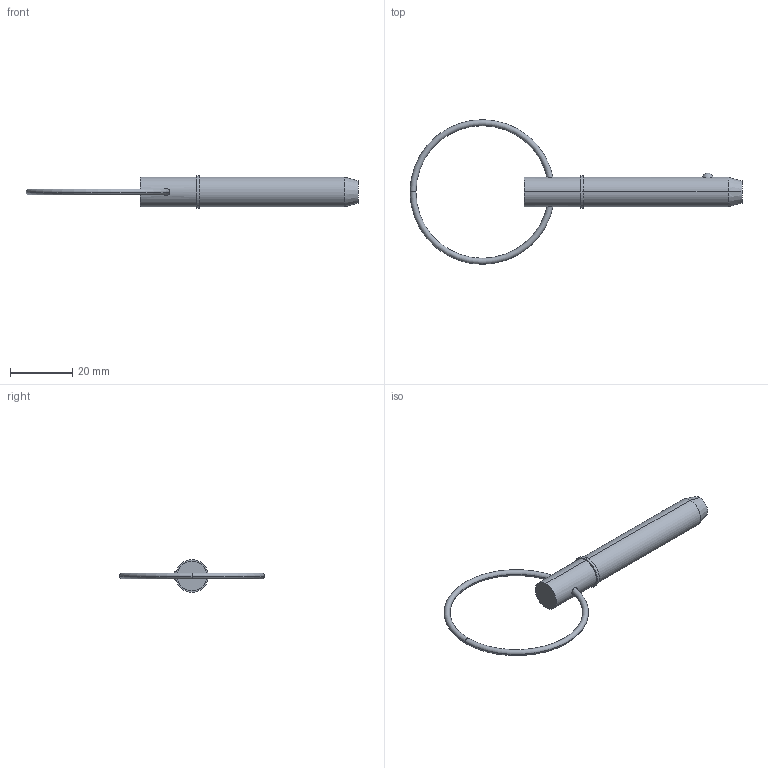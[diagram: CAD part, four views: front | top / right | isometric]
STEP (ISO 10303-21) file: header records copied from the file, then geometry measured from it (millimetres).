
FILE_DESCRIPTION (( 'STEP AP203' ), '1' );
FILE_NAME ('33016.W3715.step', '2024-11-07T11:05:05', ( '' ), ( '' ), 'SwSTEP 2.0', 'SolidWorks 2019', '' );
FILE_SCHEMA (( 'CONFIG_CONTROL_DESIGN' ));
Length unit declared in the file: millimetre
Products named in the file (3): 33016.W3715; Part2_33016.W3715; Part1_33016.W3715
Assembly tree (2 placements, depth 2):
  33016.W3715
    Part1_33016.W3715
    Part2_33016.W3715
Bounding box: 106.43 x 46.36 x 10.48 mm (x, y, z)
Volume: 5287.7 mm3; surface area: 3127.2 mm2
Topology: 2 solids, 2 shells, 22 faces, 43 edges, 26 vertices
Faces by surface type: torus 8, cylinder 6, plane 4, sphere 2, cone 2
Entity records: 1003 total; most frequent: CARTESIAN_POINT 226, DIRECTION 120, ORIENTED_EDGE 86, AXIS2_PLACEMENT_3D 56, EDGE_CURVE 43, CIRCLE 29, EDGE_LOOP 27, PERSON_AND_ORGANIZATION 26
